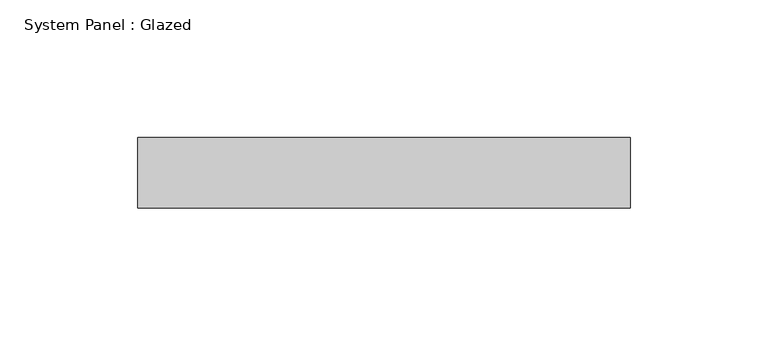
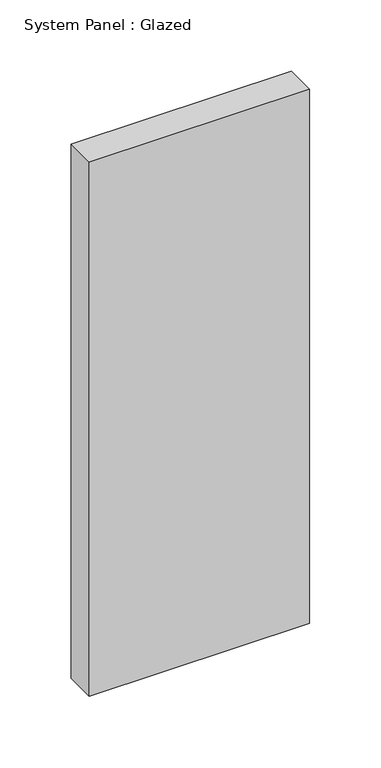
"""IFC4 building model written with IfcOpenShell, lengths in millimetres: plate geometry, System Panel : Glazed."""

import ifcopenshell
import ifcopenshell.guid

model = None  # the IFC model being written
_history = None  # IfcOwnerHistory: only IFC2X3 demands one
_inside = {}  # id of a spatial element -> (the spatial element, [elements in it])
_under = {}  # id of a project, library or spatial element -> (it, [spatial elements below it])
_declared = {}  # id of a project -> (the project, [libraries it declares])
_typed = {}  # id of a type object -> (the type object, [elements of that type])
_made_of = {}  # id of a material, layer set ... -> (it, [elements and type objects made of it])


def new_model(schema):
    """Start an empty IFC model of exactly this schema.

    Asked for "IFC4X3", IfcOpenShell would pick the latest addendum, in which some entities
    have other attributes; the version numbers below select the first issue.
    IFC2X3 requires an IfcOwnerHistory on every rooted entity: one is made here for all.
    """
    global model, _history
    if schema == "IFC4X3":
        model = ifcopenshell.file(schema_version=(4, 3, 0, 0))
    else:
        model = ifcopenshell.file(schema=schema)
    _inside.clear()
    _under.clear()
    _declared.clear()
    _typed.clear()
    _made_of.clear()
    _history = None
    if model.schema == "IFC2X3":
        org = make("IfcOrganization", Name="unknown")
        user = make(
            "IfcPersonAndOrganization",
            ThePerson=make("IfcPerson", FamilyName="unknown"),
            TheOrganization=org,
        )
        app = make(
            "IfcApplication",
            ApplicationDeveloper=org,
            Version="unknown",
            ApplicationFullName="unknown",
            ApplicationIdentifier="unknown",
        )
        _history = make(
            "IfcOwnerHistory",
            OwningUser=user,
            OwningApplication=app,
            ChangeAction="ADDED",
            CreationDate=0,
        )
    return model


def make(cls, **values):
    """One entity of the class cls with the attributes given. An attribute that is None is left unset."""
    return model.create_entity(
        cls, **{name: value for name, value in values.items() if value is not None}
    )


def rooted(cls, **values):
    """An entity with a GlobalId (a new one), such as an element, a storey or a relation."""
    return make(cls, GlobalId=ifcopenshell.guid.new(), OwnerHistory=_history, **values)


def si_unit(unit_type, name, prefix=None):
    """IfcSIUnit, for example si_unit("LENGTHUNIT", "METRE", prefix="MILLI")."""
    return make("IfcSIUnit", UnitType=unit_type, Prefix=prefix, Name=name)


def assignment(units):
    """IfcUnitAssignment: the units of a project."""
    return None if units is None else make("IfcUnitAssignment", Units=units)


def point(xyz):
    """IfcCartesianPoint."""
    return None if xyz is None else make("IfcCartesianPoint", Coordinates=xyz)


def direction(xyz):
    """IfcDirection."""
    return None if xyz is None else make("IfcDirection", DirectionRatios=xyz)


def frame(location, z_axis=None, x_axis=None):
    """IfcAxis2Placement3D, a coordinate frame: its origin and axes. An axis left out is left unset."""
    return make(
        "IfcAxis2Placement3D",
        Location=point(location),
        Axis=direction(z_axis),
        RefDirection=direction(x_axis),
    )


def origin():
    """The frame at (0, 0, 0) with its axes left unset."""
    return frame((0.0, 0.0, 0.0))


def origin_with_axes():
    """The frame at (0, 0, 0) with the z axis (0, 0, 1) and the x axis (1, 0, 0) written out."""
    return frame((0.0, 0.0, 0.0), z_axis=(0.0, 0.0, 1.0), x_axis=(1.0, 0.0, 0.0))


def place(relative_to, where):
    """IfcLocalPlacement: puts the frame where relative to a parent placement (None: the world)."""
    return make(
        "IfcLocalPlacement", PlacementRelTo=relative_to, RelativePlacement=where
    )


def context(
    kind, dimensions, precision=None, world=None, true_north=None, identifier=None
):
    """IfcGeometricRepresentationContext, for example the 3D "Model" context."""
    return make(
        "IfcGeometricRepresentationContext",
        ContextIdentifier=identifier,
        ContextType=kind,
        CoordinateSpaceDimension=dimensions,
        Precision=precision,
        WorldCoordinateSystem=world,
        TrueNorth=true_north,
    )


def project(units=None, contexts=None):
    """IfcProject with its units and contexts."""
    return rooted(
        "IfcProject",
        Name="project",
        RepresentationContexts=contexts,
        UnitsInContext=assignment(units),
    )


def spatial(cls, under=None, at=None, **own):
    """A site, building, storey or space (cls), placed at a placement, below another one or the project."""
    s = rooted(cls, ObjectPlacement=at, **own)
    if under is not None:
        _under.setdefault(under.id(), (under, []))[1].append(s)
    return s


def polyline(points):
    """IfcPolyline through the points."""
    return make("IfcPolyline", Points=[point(p) for p in points])


def outline(outer, holes=None, kind="AREA"):
    """IfcArbitraryClosedProfileDef: a profile drawn as a closed curve; with holes, ...WithVoids."""
    if holes is None:
        return make("IfcArbitraryClosedProfileDef", ProfileType=kind, OuterCurve=outer)
    return make(
        "IfcArbitraryProfileDefWithVoids",
        ProfileType=kind,
        OuterCurve=outer,
        InnerCurves=holes,
    )


def extrude(swept, where, along, depth):
    """IfcExtrudedAreaSolid: the profile swept, set in the frame where, extruded along a direction by depth."""
    return make(
        "IfcExtrudedAreaSolid",
        SweptArea=swept,
        Position=where,
        ExtrudedDirection=direction(along),
        Depth=depth,
    )


def shape(context_of_items, identifier, shape_type, items):
    """IfcShapeRepresentation: the items that make up one representation, for example the "Body"."""
    return make(
        "IfcShapeRepresentation",
        ContextOfItems=context_of_items,
        RepresentationIdentifier=identifier,
        RepresentationType=shape_type,
        Items=items,
    )


def source(mapping_origin, context_of_items, identifier, shape_type, items):
    """IfcRepresentationMap: a shape defined once, which mapped items show again and again."""
    return make(
        "IfcRepresentationMap",
        MappingOrigin=mapping_origin,
        MappedRepresentation=shape(context_of_items, identifier, shape_type, items),
    )


def transform(
    local_origin,
    x_axis=None,
    y_axis=None,
    z_axis=None,
    scale=None,
    scale2=None,
    scale3=None,
    uniform=True,
):
    """IfcCartesianTransformationOperator3D, or its non-uniform kind. x_axis, y_axis, z_axis: its Axis1, 2, 3."""
    if uniform:
        return make(
            "IfcCartesianTransformationOperator3D",
            Axis1=direction(x_axis),
            Axis2=direction(y_axis),
            LocalOrigin=point(local_origin),
            Scale=scale,
            Axis3=direction(z_axis),
        )
    return make(
        "IfcCartesianTransformationOperator3DnonUniform",
        Axis1=direction(x_axis),
        Axis2=direction(y_axis),
        LocalOrigin=point(local_origin),
        Scale=scale,
        Axis3=direction(z_axis),
        Scale2=scale2,
        Scale3=scale3,
    )


def mapped(mapping_source, mapping_target):
    """IfcMappedItem: shows the shape of a source again, moved by a transform."""
    return make(
        "IfcMappedItem", MappingSource=mapping_source, MappingTarget=mapping_target
    )


def made_of(thing, what):
    """Note that an element or type object is made of a material, layer set ...; save() writes the relation."""
    if what is not None:
        _made_of.setdefault(what.id(), (what, []))[1].append(thing)
    return thing


def element(
    cls,
    number,
    at=None,
    inside=None,
    cuts=None,
    type_object=None,
    material=None,
    context=None,
    identifier="Body",
    shape_type=None,
    held_by="IfcProductDefinitionShape",
    body=None,
    shapes=None,
    **own,
):
    """One element of the class cls, such as IfcWall. Its Tag is "e" and its number.

    at: its placement. inside: the storey or other place that contains it. cuts: it is an
    opening in that element (IfcRelVoidsElement). A single representation is given by context,
    identifier, shape_type and body (its items); several are given by shapes. held_by: the class
    of the entity that holds the representations. save() writes the other relations.
    """
    e = rooted(cls, Tag="e%d" % number, ObjectPlacement=at, **own)
    if body is not None:
        shapes = [shape(context, identifier, shape_type, body)]
    if shapes is not None:
        e.Representation = make(held_by, Representations=shapes)
    if inside is not None:
        _inside.setdefault(inside.id(), (inside, []))[1].append(e)
    if cuts is not None:
        rooted(
            "IfcRelVoidsElement", RelatingBuildingElement=cuts, RelatedOpeningElement=e
        )
    if type_object is not None:
        _typed.setdefault(type_object.id(), (type_object, []))[1].append(e)
    return made_of(e, material)


def aggregate(whole, parts):
    """IfcRelAggregates: a whole, such as a stair, and the parts it consists of."""
    return rooted("IfcRelAggregates", RelatingObject=whole, RelatedObjects=parts)


def save(model, path):
    """Write the relations noted so far, then the file.

    IfcRelAggregates (storeys below a building ...), IfcRelContainedInSpatialStructure (elements
    in a storey), IfcRelDefinesByType, IfcRelAssociatesMaterial and IfcRelDeclares: one each for
    every whole, place, type object, material and project.
    """
    for whole, parts in _under.values():
        aggregate(whole, parts)
    for where, things in _inside.values():
        rooted(
            "IfcRelContainedInSpatialStructure",
            RelatedElements=things,
            RelatingStructure=where,
        )
    for kind, things in _typed.values():
        rooted("IfcRelDefinesByType", RelatedObjects=things, RelatingType=kind)
    for what, things in _made_of.values():
        rooted("IfcRelAssociatesMaterial", RelatedObjects=things, RelatingMaterial=what)
    for by, libraries in _declared.values():
        rooted("IfcRelDeclares", RelatingContext=by, RelatedDefinitions=libraries)
    model.write(path)


def system_panel_glazed_d8d4181f(model_context):
    return source(origin(), model_context, "Body", "SweptSolid", [
        extrude(outline(polyline([(89.1999381, 19.05), (-89.1999381, 19.05), (-89.1999381, 44.45), (89.1999381, 44.45), (89.1999381, 19.05)])), origin_with_axes(), (0.0, 0.0, 1.0), 457.2),
    ])


if __name__ == "__main__":
    model = new_model("IFC4")
    model_context = context("Model", 3, world=origin())
    ifc_project = project(units=[si_unit("LENGTHUNIT", "METRE", prefix="MILLI")], contexts=[model_context])
    site = spatial("IfcSite", under=ifc_project)
    building = spatial("IfcBuilding", under=site)
    placement = place(None, origin())
    system_panel_glazed_shape = system_panel_glazed_d8d4181f(model_context)
    element("IfcPlate", 1, ObjectType="System Panel : Glazed", at=placement, inside=building, context=model_context, shape_type="MappedRepresentation", body=[
        mapped(system_panel_glazed_shape, transform((0.0, 0.0, 0.0), x_axis=(1.0, 0.0, 0.0), y_axis=(0.0, 1.0, 0.0), z_axis=(0.0, 0.0, 1.0))),
    ])
    save(model, "model.ifc")
